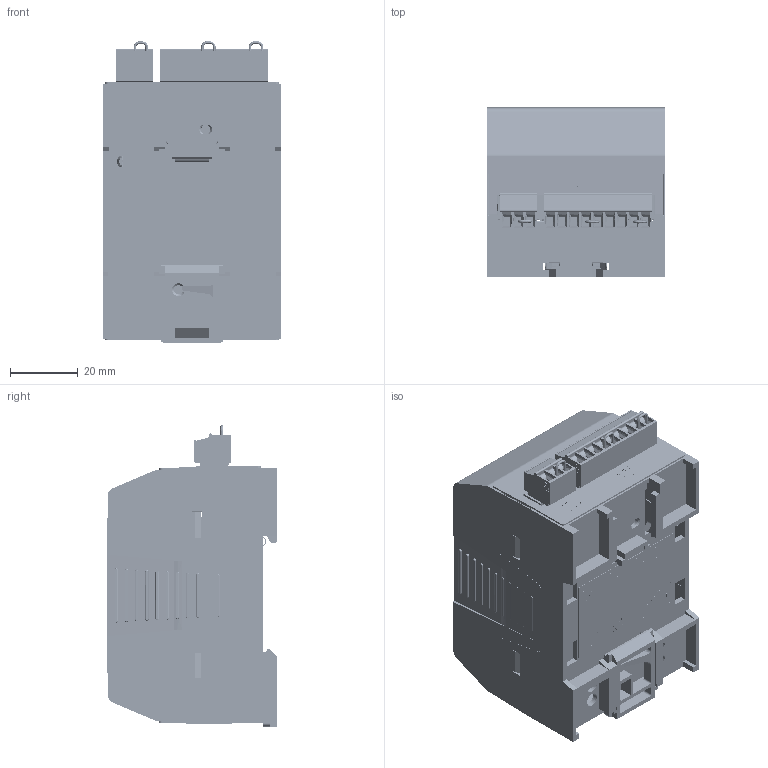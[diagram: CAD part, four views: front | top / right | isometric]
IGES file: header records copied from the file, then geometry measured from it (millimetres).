
Start section: SolidWorks IGES file using analytic representation for surfaces
Global section: file name: C:\0_Work\SolidWorks\~00_HI 6200 Series\HI6200-WP-10-PFN-000.IGS; native system: SolidWorks 2017; preprocessor: SolidWorks 2017; author: vach01; date: 190627.080627; units: millimetre
Bounding box: 52.6 x 50.23 x 88.73 mm (x, y, z)
Surface area: 107742 mm2 (no closed solid volume)
Topology: 0 solids, 0 shells, 11208 faces, 85992 edges, 85969 vertices
Faces by surface type: bspline 9358, revolution 1850
